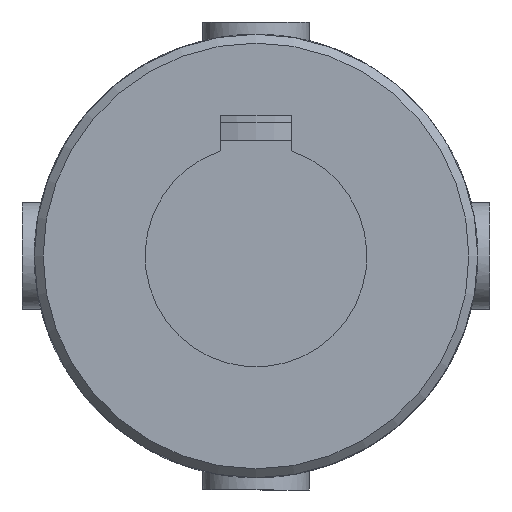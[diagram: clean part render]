
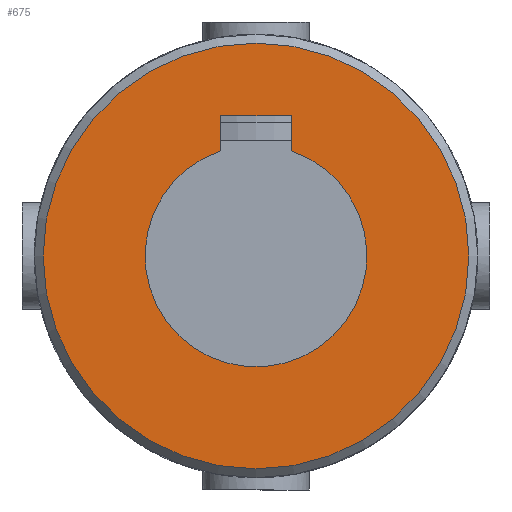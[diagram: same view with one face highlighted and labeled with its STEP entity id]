
A CAD part, left-side view. The second image highlights one B-rep face of the part: STEP entity #675.
In plain terms, the highlighted planar face has unit normal (-1, 0, 0) as drawn and (0, -1, 0) by its records, which use the part's own axes.
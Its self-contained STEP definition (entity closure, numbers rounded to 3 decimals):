
#81=LINE('',#1022,#114);
#85=LINE('',#1049,#118);
#87=LINE('',#1057,#120);
#114=VECTOR('',#840,3.957);
#118=VECTOR('',#852,8.);
#120=VECTOR('',#856,3.957);
#146=PLANE('',#738);
#170=FACE_BOUND('',#251,.T.);
#195=FACE_OUTER_BOUND('',#250,.T.);
#250=EDGE_LOOP('',(#551));
#251=EDGE_LOOP('',(#552,#553,#554,#555));
#283=CIRCLE('',#725,12.5);
#289=CIRCLE('',#736,24.);
#321=VERTEX_POINT('',#1019);
#322=VERTEX_POINT('',#1021);
#325=VERTEX_POINT('',#1031);
#327=VERTEX_POINT('',#1047);
#336=VERTEX_POINT('',#1134);
#392=EDGE_CURVE('',#322,#321,#81,.T.);
#396=EDGE_CURVE('',#325,#322,#283,.T.);
#400=EDGE_CURVE('',#321,#327,#85,.T.);
#403=EDGE_CURVE('',#327,#325,#87,.T.);
#413=EDGE_CURVE('',#336,#336,#289,.T.);
#551=ORIENTED_EDGE('',*,*,#413,.F.);
#552=ORIENTED_EDGE('',*,*,#392,.T.);
#553=ORIENTED_EDGE('',*,*,#400,.T.);
#554=ORIENTED_EDGE('',*,*,#403,.T.);
#555=ORIENTED_EDGE('',*,*,#396,.T.);
#675=ADVANCED_FACE('',(#195,#170),#146,.F.);
#725=AXIS2_PLACEMENT_3D('',#1032,#846,#847);
#736=AXIS2_PLACEMENT_3D('',#1135,#873,#874);
#738=AXIS2_PLACEMENT_3D('',#1335,#881,#882);
#840=DIRECTION('',(0.,0.,-1.));
#846=DIRECTION('center_axis',(0.,1.,0.));
#847=DIRECTION('ref_axis',(-0.32,0.,0.947));
#852=DIRECTION('',(-1.,0.,0.));
#856=DIRECTION('',(0.,0.,1.));
#873=DIRECTION('center_axis',(0.,1.,0.));
#874=DIRECTION('ref_axis',(1.,0.,0.));
#881=DIRECTION('center_axis',(0.,1.,0.));
#882=DIRECTION('ref_axis',(0.,0.,1.));
#1019=CARTESIAN_POINT('',(4.,-66.5,-15.8));
#1021=CARTESIAN_POINT('',(4.,-66.5,-11.843));
#1022=CARTESIAN_POINT('',(4.,-66.5,-5.921));
#1031=CARTESIAN_POINT('',(-4.,-66.5,-11.843));
#1032=CARTESIAN_POINT('Origin',(0.,-66.5,0.));
#1047=CARTESIAN_POINT('',(-4.,-66.5,-15.8));
#1049=CARTESIAN_POINT('',(2.,-66.5,-15.8));
#1057=CARTESIAN_POINT('',(-4.,-66.5,-7.9));
#1134=CARTESIAN_POINT('',(-24.,-66.5,0.));
#1135=CARTESIAN_POINT('Origin',(0.,-66.5,0.));
#1335=CARTESIAN_POINT('Origin',(0.,-66.5,0.));
